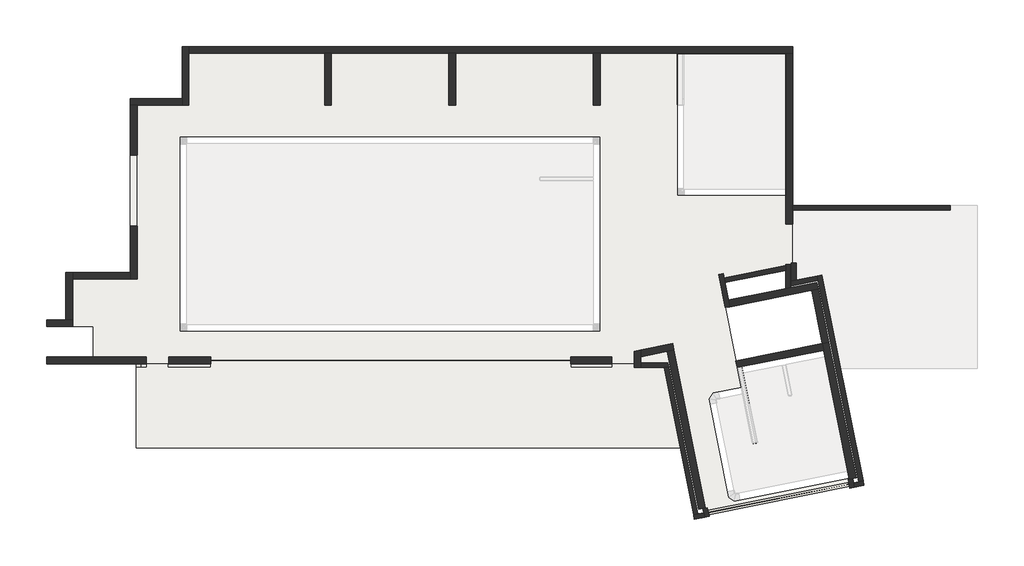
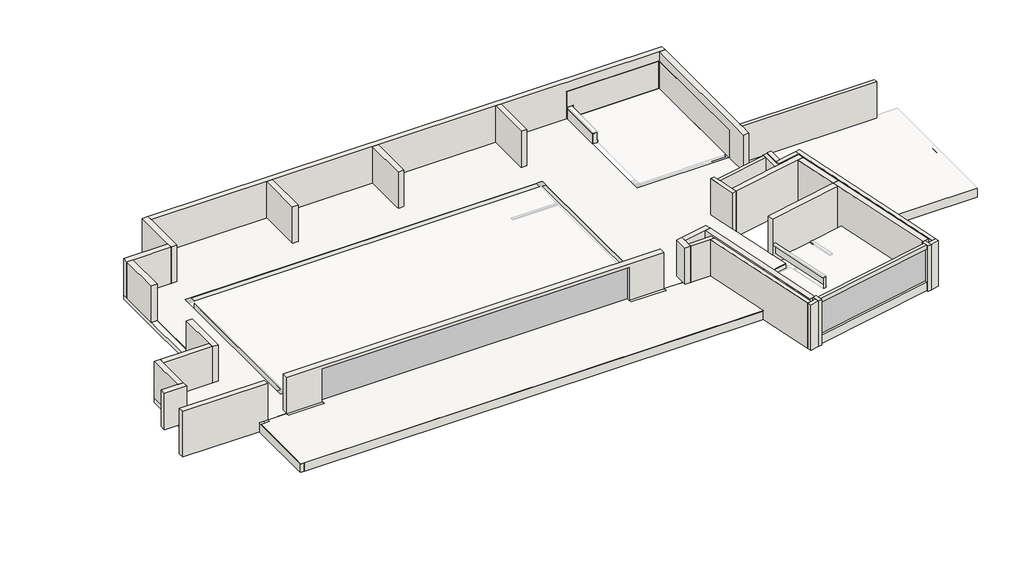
# One storey, part 1 of 2: 47 walls, 3 slabs, 2 plates.
"""IFC4 building model written with IfcOpenShell, lengths in millimetres."""

from ifc_helpers import new_model, si_unit, frame, origin, place, context, project, spatial, polyline, outline, extrude, faceted_brep, transform, mapped, element, save
from components import panel_acristalado_panel_acristalado_1cm_c159a7d5, panel_acristalado_panel_acristalado_1cm_5b8627b4

model = new_model("IFC4")

# Units and contexts
model_context = context("Model", 3, world=origin())
ifc_project = project(units=[si_unit("LENGTHUNIT", "METRE", prefix="MILLI")], contexts=[model_context])

# Site, building, storey
site = spatial("IfcSite", under=ifc_project)
building = spatial("IfcBuilding", under=site)
storey = spatial("IfcBuildingStorey", under=building, Name="1_NPlaya", Elevation=-0.4)

# Plates
placement = place(None, origin())
panel_acristalado_panel_acristalado_1cm_shape = panel_acristalado_panel_acristalado_1cm_c159a7d5(model_context)
element("IfcPlate", 1, ObjectType="Panel acristalado : Panel acristalado 1cm", at=placement, inside=storey, context=model_context, shape_type="MappedRepresentation", body=[
    mapped(panel_acristalado_panel_acristalado_1cm_shape, transform((16502.6011872, -36801.493098, -10.4), x_axis=(1.0, 0.0, 0.0), y_axis=(0.0, 1.0, 0.0), z_axis=(0.0, 0.0, 1.0))),
])
panel_acristalado_panel_acristalado_1cm_2_shape = panel_acristalado_panel_acristalado_1cm_5b8627b4(model_context)
element("IfcPlate", 2, ObjectType="Panel acristalado : Panel acristalado 1cm", at=placement, inside=storey, context=model_context, shape_type="MappedRepresentation", body=[
    mapped(panel_acristalado_panel_acristalado_1cm_2_shape, transform((33678.7297583, -42908.1677095, -10.4), x_axis=(0.9805675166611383, 0.1961819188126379, 0.0), y_axis=(-0.1961819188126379, 0.9805675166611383, 0.0), z_axis=(0.0, 0.0, 1.0))),
])

# Slabs
element("IfcSlab", 3, ObjectType="Pieza 316_Patrón 1/3_Serena_Griggio_Anti-Slip", at=placement, inside=storey, context=model_context, shape_type="SweptSolid", body=[
    extrude(outline(polyline([(2427.4363177, -35301.4931406), (2427.4363177, -33201.493098), (5277.4363177, -33201.493098), (5277.4363177, -25501.493098), (7577.4363177, -25501.493098), (7577.4363177, -23201.493098), (13577.4363177, -23201.493098), (13577.4363177, -25501.493098), (13877.4363177, -25501.493098), (13877.4363177, -23201.493098), (19077.4363177, -23201.493098), (19077.4363177, -25501.493098), (19377.4363177, -25501.493098), (19377.4363177, -23201.493098), (25477.4363177, -23201.493098), (25477.4363177, -25501.493098), (25777.4363177, -25501.493098), (25777.4363177, -23201.493098), (29192.4363177, -23201.493098), (29192.4363177, -29486.493098), (33977.4363177, -29486.493098), (33977.4363177, -30751.493098), (34277.4363177, -30751.493098), (34277.4363177, -32551.493098), (33977.4363177, -32551.493098), (33977.4363177, -32601.9798306), (31251.664902, -33147.3242945), (31212.4285182, -32951.2107912), (31016.3150149, -32990.447175), (32015.0051069, -37982.1562434), (30752.0259879, -38234.8401537), (30580.5352492, -38492.1136548), (31453.6116689, -42855.9734411), (31710.8851655, -43027.4641767), (36798.0776257, -42009.6707466), (36808.2330043, -42060.4299319), (36754.301773, -42071.219941), (36777.8436033, -42188.8880433), (30516.9172248, -43441.5100917), (30493.3753958, -43323.8419957), (30434.5441177, -43335.612356), (28976.9124606, -36049.9957073), (27277.4363177, -36390.0095107), (27277.4363177, -36951.493098), (26277.4363177, -36951.493098), (26277.4363177, -36651.493098), (24472.7660566, -36651.493098), (24472.7660566, -36796.493098), (8532.4363177, -36796.493098), (8532.4363177, -36651.493098), (6677.4363177, -36651.493098), (6677.4363177, -36951.493098), (5677.4363177, -36951.493098), (5677.4363177, -36651.493098), (3342.4363177, -36651.493098), (3342.4363177, -35301.4931406), (2427.4363177, -35301.4931406)]), holes=[polyline([(25762.4363125, -26916.5022183), (7192.445438, -26916.5022183), (7192.445438, -35486.4839777), (25762.4363125, -35486.4839777), (25762.4363125, -26916.5022183)])]), frame((0.0, 0.0, -9.4), z_axis=(0.0, 0.0, 1.0), x_axis=(1.0, 0.0, 0.0)), (0.0, 0.0, 1.0), 9.0),
])
element("IfcSlab", 4, ObjectType="Pieza 316_Patrón 1/3_Serena_Griggio_Anti-Slip", at=placement, inside=storey, context=model_context, shape_type="SweptSolid", body=[
    extrude(outline(polyline([(5247.4363177, -40681.493098), (5247.4363177, -37116.493098), (5709.4363177, -37116.493098), (5709.4363177, -36951.493098), (6647.4363177, -36951.493098), (6647.4363177, -37116.493098), (8532.4363177, -37116.493098), (8532.4363177, -36806.493098), (24472.7660566, -36806.493098), (24472.7660566, -37116.493098), (26307.4363177, -37116.493098), (26307.4363177, -36951.493098), (27277.4363177, -36951.493098), (27277.4363177, -37116.493098), (28603.8912364, -37116.493098), (29317.1399368, -40681.493098), (5247.4363177, -40681.493098)])), frame((0.0, 0.0, -9.4), z_axis=(0.0, 0.0, 1.0), x_axis=(1.0, 0.0, 0.0)), (0.0, 0.0, 1.0), 9.0),
])
element("IfcSlab", 5, ObjectType="GENÉRICO_SOLERA PLAYA PISCINA_Estructura", at=placement, inside=storey, context=model_context, shape_type="SweptSolid", body=[
    extrude(outline(polyline([(3342.4363177, -35301.4931406), (2127.4363177, -35301.4931406), (2127.4363177, -32901.493098), (4977.4363177, -32901.493098), (4977.4363177, -25201.493098), (7277.4363177, -25201.493098), (7277.4363177, -23201.493098), (13577.4363177, -23201.493098), (13577.4363177, -25501.493098), (13877.4363177, -25501.493098), (13877.4363177, -23201.493098), (19077.4363177, -23201.493098), (19077.4363177, -25501.493098), (19377.4363177, -25501.493098), (19377.4363177, -23201.493098), (25477.4363177, -23201.493098), (25477.4363177, -25501.493098), (25777.4363177, -25501.493098), (25777.4363177, -23201.493098), (29192.4363177, -23201.493098), (29192.4363177, -29486.493098), (33977.4363177, -29486.493098), (33977.4363177, -30751.493098), (34277.4363177, -30751.493098), (34277.4363177, -32551.493098), (33977.4363177, -32551.493098), (33977.4363177, -32601.9798306), (31251.664902, -33147.3242945), (31212.4285182, -32951.2107912), (31016.3150149, -32990.447175), (32015.0051069, -37982.1562434), (30752.0259879, -38234.8401537), (30580.5352492, -38492.1136548), (31453.6116689, -42855.9734411), (31710.8851655, -43027.4641767), (36798.0776257, -42009.6707466), (36808.2330043, -42060.4299319), (36754.301773, -42071.219941), (36777.8436033, -42188.8880433), (30516.9172248, -43441.5100917), (30493.3753958, -43323.8419957), (30434.5441177, -43335.612356), (29857.5190372, -40451.493098), (5447.4363177, -40451.493098), (5447.4363177, -36651.493098), (3342.4363177, -36651.493098), (3342.4363177, -35301.4931406)]), holes=[polyline([(25762.4363125, -26916.5022183), (7192.445438, -26916.5022183), (7192.445438, -35486.4839777), (25762.4363125, -35486.4839777), (25762.4363125, -26916.5022183)])]), frame((0.0, 0.0, -241.4), z_axis=(0.0, 0.0, 1.0), x_axis=(1.0, 0.0, 0.0)), (0.0, 0.0, 1.0), 231.0),
])

# Walls
element("IfcWall", 6, ObjectType="Pieza 244 G1_Patrón Recto_Aqua_Azul_Liso", at=placement, inside=storey, context=model_context, shape_type="SweptSolid", body=[
    extrude(outline(polyline([(7477.4363177, -27231.493098), (7477.4363177, -35171.493098), (7468.4363177, -35171.493098), (7468.4363177, -27231.493098), (7477.4363177, -27231.493098)])), frame((0.0, 0.0, -1320.4), z_axis=(0.0, 0.0, 1.0), x_axis=(1.0, 0.0, 0.0)), (0.0, 0.0, 1.0), 1213.3450913),
])
element("IfcWall", 7, ObjectType="Pieza 244 G1_Patrón Recto_Aqua_Azul_Liso", at=placement, inside=storey, context=model_context, shape_type="SweptSolid", body=[
    extrude(outline(polyline([(629.6, 29162.4363177), (629.6, 29507.4629063), (12.879961, 29507.4629063), (12.879961, 33947.4629063), (1499.6, 33947.4629063), (1499.6, 29162.4363177), (629.6, 29162.4363177)])), frame((0.0, -23201.493098, 0.0), z_axis=(0.0, 1.0, 0.0), x_axis=(0.0, 0.0, 1.0)), (0.0, 0.0, 1.0), 9.0),
])
element("IfcWall", 8, ObjectType="Pieza 244 G1_Patrón Recto_Aqua_Azul_Liso", at=placement, inside=storey, context=model_context, shape_type="SweptSolid", body=[
    extrude(outline(polyline([(33977.4363177, -29496.4935365), (33977.4363177, -23231.4665095), (33986.4363177, -23231.4665095), (33986.4363177, -29496.4935365), (33977.4363177, -29496.4935365)])), frame((0.0, 0.0, 12.879961), z_axis=(0.0, 0.0, 1.0), x_axis=(1.0, 0.0, 0.0)), (0.0, 0.0, 1.0), 1486.720039),
])
element("IfcWall", 9, ObjectType="Pieza 244 G1_Patrón Recto_Aqua_Azul_Liso", at=placement, inside=storey, context=model_context, shape_type="SweptSolid", body=[
    extrude(outline(polyline([(29192.4363177, -25461.493098), (29192.4363177, -23231.5196866), (29201.4363177, -23231.5196866), (29201.4363177, -25461.493098), (29192.4363177, -25461.493098)])), frame((0.0, 0.0, -0.4), z_axis=(0.0, 0.0, 1.0), x_axis=(1.0, 0.0, 0.0)), (0.0, 0.0, 1.0), 560.0),
])
element("IfcWall", 10, ObjectType="Pieza 244 G1_Patrón Recto_Aqua_Azul_Liso", at=placement, inside=storey, context=model_context, shape_type="SweptSolid", body=[
    extrude(outline(polyline([(29437.4363177, -25501.493098), (29232.4363177, -25501.493098), (29232.4363177, -25492.493098), (29437.4363177, -25492.493098), (29437.4363177, -25501.493098)])), frame((0.0, 0.0, -0.4), z_axis=(0.0, 0.0, 1.0), x_axis=(1.0, 0.0, 0.0)), (0.0, 0.0, 1.0), 560.0),
])
element("IfcWall", 11, ObjectType="Pieza 244 G1_Patrón Recto_Aqua_Azul_Liso", at=placement, inside=storey, context=model_context, shape_type="SweptSolid", body=[
    extrude(outline(polyline([(29477.4363177, -23231.5196866), (29477.4363177, -25461.493098), (29468.4363177, -25461.493098), (29468.4363177, -23231.5196866), (29477.4363177, -23231.5196866)])), frame((0.0, 0.0, 12.879961), z_axis=(0.0, 0.0, 1.0), x_axis=(1.0, 0.0, 0.0)), (0.0, 0.0, 1.0), 546.720039),
])
element("IfcWall", 12, ObjectType="Pieza 244 G1_Patrón Recto_Aqua_Azul_Liso", at=placement, inside=storey, context=model_context, shape_type="SweptSolid", body=[
    extrude(outline(polyline([(30.7353566, 0.0), (505.8629836, 0.0), (600.0002385, -480.1), (296.6615313, -480.1), (190.7619471, -1140.9709657), (190.7619471, -1144.1545458), (150.8175335, -1144.1545458), (150.8175335, -1730.1), (30.7353566, -1730.1), (30.7353566, 0.0)])), frame((32526.1652777, -40489.9763569, -1170.5), z_axis=(-0.19618191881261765, 0.9805675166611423, 0.0), x_axis=(0.9805675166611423, 0.19618191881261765, 0.0)), (0.0, 0.0, 1.0), 9.0),
])
element("IfcWall", 13, ObjectType="Pieza 244 G1_Patrón Recto_Aqua_Azul_Liso", at=placement, inside=storey, context=model_context, shape_type="SweptSolid", body=[
    extrude(outline(polyline([(32037.3786631, -37074.5232931), (32705.3781832, -40413.35567), (32696.5530756, -40415.1213075), (32028.5535555, -37076.2889306), (32037.3786631, -37074.5232931)])), frame((0.0, 0.0, 3.7573653), z_axis=(0.0, 0.0, 1.0), x_axis=(1.0, 0.0, 0.0)), (0.0, 0.0, 1.0), 555.8426347),
])
element("IfcWall", 14, ObjectType="GENÉRICO_MURO BASE_30 cm", at=placement, inside=storey, context=model_context, shape_type="Brep", body=[
    faceted_brep([(35606.5722965, -36054.2218591, -500.4), (35665.4268722, -36348.3921141, -500.4), (36808.2329733, -42060.429938, -500.4), (36808.2329733, -42060.429938, 1999.6), (35665.4268722, -36348.3921141, 1999.6), (35606.5722965, -36054.2218591, 1999.6), (35900.7425515, -35995.3672834, -500.4), (35900.7425515, -35995.3672834, 1999.6), (37102.4032283, -42001.5753624, 1999.6), (37102.4032283, -42001.5753624, -500.4), (36950.4152763, -42031.9835572, -500.4), (36950.4152763, -42031.9835572, 1999.6)], [[[0, 1, 2, 3, 4, 5]], [[6, 7, 8, 9]], [[2, 1, 0, 6, 9, 10]], [[3, 2, 10, 9, 8, 11]], [[5, 4, 3, 11, 8, 7]], [[0, 5, 7, 6]]]),
])
element("IfcWall", 15, ObjectType="GENÉRICO_MURO BASE_30 cm", at=placement, inside=storey, context=model_context, shape_type="SweptSolid", body=[
    extrude(outline(polyline([(35665.4268722, -36348.3921141), (31841.21357, -37113.5015949), (31782.3589943, -36819.3313399), (35606.5722965, -36054.2218591), (35665.4268722, -36348.3921141)])), frame((0.0, 0.0, -500.4), z_axis=(0.0, 0.0, 1.0), x_axis=(1.0, 0.0, 0.0)), (0.0, 0.0, 1.0), 2500.0),
])
element("IfcWall", 16, ObjectType="GENÉRICO_MURO BASE_30 cm", at=placement, inside=storey, context=model_context, shape_type="Brep", body=[
    faceted_brep([(27577.4363177, -37116.493098, -500.4), (27577.4363177, -36916.493098, -500.4), (27577.4363177, -36635.9338557, -500.4), (27577.4363177, -36329.9885793, -500.4), (27577.4363177, -36329.9885793, 1999.6), (27577.4363177, -36635.9338557, 1999.6), (27577.4363177, -36916.493098, 1999.6), (27577.4363177, -37116.493098, 1999.6), (27277.4363177, -37116.493098, -500.4), (27277.4363177, -37116.493098, 1999.6), (27277.4363177, -36390.0095107, 1999.6), (27277.4363177, -36390.0095107, -500.4)], [[[0, 1, 2, 3, 4, 5, 6, 7]], [[8, 9, 10, 11]], [[3, 2, 1, 0, 8, 11]], [[7, 6, 5, 4, 10, 9]], [[4, 3, 11, 10]], [[0, 7, 9, 8]]]),
])
element("IfcWall", 17, ObjectType="GENÉRICO_MURO BASE_30 cm", at=placement, inside=storey, context=model_context, shape_type="Brep", body=[
    faceted_brep([(27577.4363177, -36635.9338557, -500.4), (28741.5967785, -36403.0205386, -500.4), (29035.7670335, -36344.1659629, -500.4), (29035.7670335, -36344.1659629, 1999.6), (28741.5967785, -36403.0205386, 1999.6), (27577.4363177, -36635.9338557, 1999.6), (27577.4363177, -36329.9885793, -500.4), (27577.4363177, -36329.9885793, 1999.6), (28976.9124606, -36049.9957074, 1999.6), (28976.9124606, -36049.9957074, -500.4)], [[[0, 1, 2, 3, 4, 5]], [[6, 7, 8, 9]], [[2, 1, 0, 6, 9]], [[5, 4, 3, 8, 7]], [[0, 5, 7, 6]], [[3, 2, 9, 8]]]),
])
element("IfcWall", 18, ObjectType="GENÉRICO_MURO BASE_30 cm", at=placement, inside=storey, context=model_context, shape_type="SweptSolid", body=[
    extrude(outline(polyline([(30140.3737946, -43394.4669435), (28741.5967785, -36403.0205386), (29035.7670335, -36344.1659629), (30434.5440501, -43335.6123706), (30140.3737946, -43394.4669435)])), frame((0.0, 0.0, -500.4), z_axis=(0.0, 0.0, 1.0), x_axis=(1.0, 0.0, 0.0)), (0.0, 0.0, 1.0), 2500.0),
])
element("IfcWall", 19, ObjectType="GENÉRICO_MURO BASE_30 cm", at=placement, inside=storey, context=model_context, shape_type="Brep", body=[
    faceted_brep([(7577.4363177, -25501.493098, -0.4), (7577.4363177, -22892.493098, -0.4), (7577.4363177, -22892.493098, 1999.6), (7577.4363177, -23192.493098, 1999.6), (7577.4363177, -25501.493098, 1999.6), (7277.4363177, -25501.493098, -0.4), (7277.4363177, -25501.493098, 1999.6), (7277.4363177, -25201.493098, 1999.6), (7277.4363177, -22892.493098, 1999.6), (7277.4363177, -22892.493098, -0.4), (7277.4363177, -25201.493098, -0.4)], [[[0, 1, 2, 3, 4]], [[5, 6, 7, 8, 9, 10]], [[1, 0, 5, 10, 9]], [[2, 1, 9, 8]], [[4, 3, 2, 8, 7, 6]], [[0, 4, 6, 5]]]),
])
element("IfcWall", 20, ObjectType="GENÉRICO_MURO BASE_30 cm", at=placement, inside=storey, context=model_context, shape_type="Brep", body=[
    faceted_brep([(7577.4363177, -23192.493098, -1200.4), (33987.4097292, -23192.493098, -1200.4), (34287.4097292, -23192.493098, -1200.4), (34287.4097292, -23192.493098, 1999.6), (33987.4097292, -23192.493098, 1999.6), (7577.4363177, -23192.493098, 1999.6), (7577.4363177, -22892.493098, -1200.4), (7577.4363177, -22892.493098, -0.4), (7577.4363177, -22892.493098, 1999.6), (34287.4097292, -22892.493098, 1999.6), (34287.4097292, -22892.493098, -1200.4)], [[[0, 1, 2, 3, 4, 5]], [[6, 7, 8, 9, 10]], [[2, 1, 0, 6, 10]], [[5, 4, 3, 9, 8]], [[3, 2, 10, 9]], [[0, 5, 8, 7, 6]]]),
])
element("IfcWall", 21, ObjectType="GENÉRICO_MURO BASE_30 cm", at=placement, inside=storey, context=model_context, shape_type="SweptSolid", body=[
    extrude(outline(polyline([(13577.4363177, -25501.493098), (13577.4363177, -23192.493098), (13877.4363177, -23192.493098), (13877.4363177, -25501.493098), (13577.4363177, -25501.493098)])), frame((0.0, 0.0, -0.4), z_axis=(0.0, 0.0, 1.0), x_axis=(1.0, 0.0, 0.0)), (0.0, 0.0, 1.0), 2000.0),
])
element("IfcWall", 22, ObjectType="GENÉRICO_MURO BASE_30 cm", at=placement, inside=storey, context=model_context, shape_type="SweptSolid", body=[
    extrude(outline(polyline([(19077.4363177, -25501.493098), (19077.4363177, -23192.493098), (19377.4363177, -23192.493098), (19377.4363177, -25501.493098), (19077.4363177, -25501.493098)])), frame((0.0, 0.0, -0.4), z_axis=(0.0, 0.0, 1.0), x_axis=(1.0, 0.0, 0.0)), (0.0, 0.0, 1.0), 2000.0),
])
element("IfcWall", 23, ObjectType="GENÉRICO_MURO BASE_30 cm", at=placement, inside=storey, context=model_context, shape_type="SweptSolid", body=[
    extrude(outline(polyline([(25477.4363177, -25501.493098), (25477.4363177, -23192.493098), (25777.4363177, -23192.493098), (25777.4363177, -25501.493098), (25477.4363177, -25501.493098)])), frame((0.0, 0.0, -0.4), z_axis=(0.0, 0.0, 1.0), x_axis=(1.0, 0.0, 0.0)), (0.0, 0.0, 1.0), 2000.0),
])
element("IfcWall", 24, ObjectType="GENÉRICO_MURO BASE_30 cm", at=placement, inside=storey, context=model_context, shape_type="Brep", body=[
    faceted_brep([(33987.4097292, -23192.493098, -1200.4), (33987.4097292, -30751.493098, -1200.4), (33987.4097292, -30751.493098, 1999.6), (33987.4097292, -23192.493098, 1999.6), (34287.4097292, -23192.493098, -1200.4), (34287.4097292, -23192.493098, 1999.6), (34287.4097292, -29932.2845833, 1999.6), (34287.4097292, -30132.2845833, 1999.6), (34287.4097292, -30751.493098, 1999.6), (34287.4097292, -30751.493098, -1200.4), (34287.4097292, -30132.2845833, -1200.4), (34287.4097292, -29932.2845833, -1200.4)], [[[0, 1, 2, 3]], [[4, 5, 6, 7, 8, 9, 10, 11]], [[1, 0, 4, 11, 10, 9]], [[2, 1, 9, 8]], [[3, 2, 8, 7, 6, 5]], [[0, 3, 5, 4]]]),
])
element("IfcWall", 25, ObjectType="GENÉRICO_MURO BASE_30 cm", at=placement, inside=storey, context=model_context, shape_type="Brep", body=[
    faceted_brep([(7277.4363177, -25201.493098, -0.4), (4977.4363177, -25201.493098, -0.4), (4977.4363177, -25201.493098, 1999.6), (7277.4363177, -25201.493098, 1999.6), (7277.4363177, -25501.493098, -0.4), (7277.4363177, -25501.493098, 1999.6), (5277.4363177, -25501.493098, 1999.6), (4977.4363177, -25501.493098, 1999.6), (4977.4363177, -25501.493098, -0.4), (5277.4363177, -25501.493098, -0.4)], [[[0, 1, 2, 3]], [[4, 5, 6, 7, 8, 9]], [[1, 0, 4, 9, 8]], [[3, 2, 7, 6, 5]], [[2, 1, 8, 7]], [[0, 3, 5, 4]]]),
])
element("IfcWall", 26, ObjectType="GENÉRICO_MURO BASE_30 cm", at=placement, inside=storey, context=model_context, shape_type="SweptSolid", body=[
    extrude(outline(polyline([(4977.4363177, -27701.493098), (4977.4363177, -25501.493098), (5277.4363177, -25501.493098), (5277.4363177, -27701.493098), (4977.4363177, -27701.493098)])), frame((0.0, 0.0, -0.4), z_axis=(0.0, 0.0, 1.0), x_axis=(1.0, 0.0, 0.0)), (0.0, 0.0, 1.0), 2000.0),
])
element("IfcWall", 27, ObjectType="GENÉRICO_MURO BASE_30 cm", at=placement, inside=storey, context=model_context, shape_type="Brep", body=[
    faceted_brep([(4977.4363177, -30852.1035335, -0.4), (4977.4363177, -32901.493098, -0.4), (4977.4363177, -33201.493098, -0.4), (4977.4363177, -33201.493098, 1999.6), (4977.4363177, -32901.493098, 1999.6), (4977.4363177, -30852.1035335, 1999.6), (5277.4363177, -30852.1035335, -0.4), (5277.4363177, -30852.1035335, 1999.6), (5277.4363177, -33201.493098, 1999.6), (5277.4363177, -33201.493098, -0.4)], [[[0, 1, 2, 3, 4, 5]], [[6, 7, 8, 9]], [[2, 1, 0, 6, 9]], [[5, 4, 3, 8, 7]], [[0, 5, 7, 6]], [[3, 2, 9, 8]]]),
])
element("IfcWall", 28, ObjectType="GENÉRICO_MURO BASE_30 cm", at=placement, inside=storey, context=model_context, shape_type="SweptSolid", body=[
    extrude(outline(polyline([(2427.4363177, -32901.493098), (4977.4363177, -32901.493098), (4977.4363177, -33201.493098), (2427.4363177, -33201.493098), (2427.4363177, -32901.493098)])), frame((0.0, 0.0, -0.4), z_axis=(0.0, 0.0, 1.0), x_axis=(1.0, 0.0, 0.0)), (0.0, 0.0, 1.0), 2000.0),
])
element("IfcWall", 29, ObjectType="GENÉRICO_MURO BASE_30 cm", at=placement, inside=storey, context=model_context, shape_type="Brep", body=[
    faceted_brep([(2127.4363177, -32901.493098, -0.4), (2127.4363177, -35001.4931406, -0.4), (2127.4363177, -35001.4931406, 1999.6), (2127.4363177, -32901.493098, 1999.6), (2427.4363177, -32901.493098, -0.4), (2427.4363177, -32901.493098, 1999.6), (2427.4363177, -33201.493098, 1999.6), (2427.4363177, -35001.4931406, 1999.6), (2427.4363177, -35001.4931406, -0.4), (2427.4363177, -33201.493098, -0.4)], [[[0, 1, 2, 3]], [[4, 5, 6, 7, 8, 9]], [[1, 0, 4, 9, 8]], [[3, 2, 7, 6, 5]], [[2, 1, 8, 7]], [[0, 3, 5, 4]]]),
])
element("IfcWall", 30, ObjectType="GENÉRICO_MURO BASE_30 cm", at=placement, inside=storey, context=model_context, shape_type="Brep", body=[
    faceted_brep([(2427.4363177, -35001.4931406, -0.4), (2127.4363177, -35001.4931406, -0.4), (1273.3788418, -35001.4931406, -0.4), (1273.3788418, -35001.4931406, 1999.6), (2127.4363177, -35001.4931406, 1999.6), (2427.4363177, -35001.4931406, 1999.6), (2427.4363177, -35301.4931406, -0.4), (2427.4363177, -35301.4931406, 1999.6), (1273.3788418, -35301.4931406, 1999.6), (1273.3788418, -35301.4931406, -0.4)], [[[0, 1, 2, 3, 4, 5]], [[6, 7, 8, 9]], [[2, 1, 0, 6, 9]], [[3, 2, 9, 8]], [[5, 4, 3, 8, 7]], [[0, 5, 7, 6]]]),
])
element("IfcWall", 31, ObjectType="GENÉRICO_MURO BASE_30 cm", at=placement, inside=storey, context=model_context, shape_type="Brep", body=[
    faceted_brep([(5677.4363177, -36651.493098, -500.4), (1273.3788418, -36651.493098, -500.4), (1273.3788418, -36651.493098, 1999.6), (5677.4363177, -36651.493098, 1999.6), (5677.4363177, -36951.493098, -500.4), (5677.4363177, -36951.493098, 1999.6), (1273.3788418, -36951.493098, 1999.6), (1273.3788418, -36951.493098, -500.4), (5247.4363177, -36951.493098, -500.4), (5447.4363177, -36951.493098, -500.4)], [[[0, 1, 2, 3]], [[4, 5, 6, 7, 8, 9]], [[1, 0, 4, 9, 8, 7]], [[2, 1, 7, 6]], [[3, 2, 6, 5]], [[0, 3, 5, 4]]]),
])
element("IfcWall", 32, ObjectType="GENÉRICO_MURO BASE_30 cm", at=placement, inside=storey, context=model_context, shape_type="SweptSolid", body=[
    extrude(outline(polyline([(-500.4, 6677.4363177), (-500.4, 26277.4363177), (1999.6, 26277.4363177), (1999.6, 6677.4363177), (-500.4, 6677.4363177)]), holes=[polyline([(-10.4, 8532.4363177), (1799.6, 8532.4363177), (1799.6, 24472.7660566), (-10.4, 24472.7660566), (-10.4, 8532.4363177)])]), frame((0.0, -36951.493098, 0.0), z_axis=(0.0, 1.0, 0.0), x_axis=(0.0, 0.0, 1.0)), (0.0, 0.0, 1.0), 300.0),
])
element("IfcWall", 33, ObjectType="GENÉRICO_MURO BASE_20 cm", at=placement, inside=storey, context=model_context, shape_type="Brep", body=[
    faceted_brep([(27577.4363177, -37116.493098, -500.4), (28603.8912364, -37116.493098, -500.4), (28807.8547537, -37116.493098, -500.4), (28807.8547537, -37116.493098, 1999.6), (28603.8912364, -37116.493098, 1999.6), (27577.4363177, -37116.493098, 1999.6), (27577.4363177, -36916.493098, -500.4), (27577.4363177, -36916.493098, 1999.6), (28767.8408014, -36916.493098, 1999.6), (28767.8408014, -36916.493098, -500.4)], [[[0, 1, 2, 3, 4, 5]], [[6, 7, 8, 9]], [[2, 1, 0, 6, 9]], [[5, 4, 3, 8, 7]], [[3, 2, 9, 8]], [[0, 5, 7, 6]]]),
])
element("IfcWall", 34, ObjectType="GENÉRICO_MURO BASE_20 cm", at=placement, inside=storey, context=model_context, shape_type="Brep", body=[
    faceted_brep([(28603.8912364, -37116.493098, -500.4), (29271.1238917, -40451.493098, -500.4), (29311.137844, -40651.493098, -500.4), (29908.5009362, -43637.2670959, -500.4), (29908.5009362, -43637.2670959, 1999.6), (28603.8912364, -37116.493098, 1999.6), (28807.8547537, -37116.493098, -500.4), (28807.8547537, -37116.493098, 1999.6), (30104.6144395, -43598.0307121, 1999.6), (30104.6144395, -43598.0307121, -500.4)], [[[0, 1, 2, 3, 4, 5]], [[6, 7, 8, 9]], [[3, 2, 1, 0, 6, 9]], [[5, 4, 8, 7]], [[0, 5, 7, 6]], [[4, 3, 9, 8]]]),
])
element("IfcWall", 35, ObjectType="GENÉRICO_MURO BASE_20 cm", at=placement, inside=storey, context=model_context, shape_type="Brep", body=[
    faceted_brep([(29947.7373181, -43833.3805996, -500.4), (30398.7983758, -43743.1369169, -500.4), (30398.7983758, -43743.1369169, 1999.6), (29947.7373181, -43833.3805996, 1999.6), (29908.5009362, -43637.2670959, -500.4), (29908.5009362, -43637.2670959, 1999.6), (30104.6144395, -43598.0307121, 1999.6), (30359.561992, -43547.0234136, 1999.6), (30359.561992, -43547.0234136, -500.4), (30104.6144395, -43598.0307121, -500.4)], [[[0, 1, 2, 3]], [[4, 5, 6, 7, 8, 9]], [[1, 0, 4, 9, 8]], [[3, 2, 7, 6, 5]], [[0, 3, 5, 4]], [[2, 1, 8, 7]]]),
])
element("IfcWall", 36, ObjectType="GENÉRICO_MURO BASE_20 cm", at=placement, inside=storey, context=model_context, shape_type="Brep", body=[
    faceted_brep([(30321.778791, -43358.1732901, -500.4), (30359.561992, -43547.0234136, -500.4), (30398.7983758, -43743.1369169, -500.4), (30398.7983758, -43743.1369169, 1999.6), (30359.561992, -43547.0234136, 1999.6), (30321.778791, -43358.1732901, 1999.6), (30517.8922943, -43318.9369063, -500.4), (30517.8922943, -43318.9369063, 1999.6), (30540.9068322, -43433.969466, 1999.6), (30580.143216, -43630.0829693, 1999.6), (30594.9118791, -43703.9005331, 1999.6), (30594.9118791, -43703.9005331, -500.4), (30580.143216, -43630.0829693, -500.4), (30540.9068322, -43433.969466, -500.4)], [[[0, 1, 2, 3, 4, 5]], [[6, 7, 8, 9, 10, 11, 12, 13]], [[2, 1, 0, 6, 13, 12, 11]], [[5, 4, 3, 10, 9, 8, 7]], [[0, 5, 7, 6]], [[3, 2, 11, 10]]]),
])
element("IfcWall", 37, ObjectType="GENÉRICO_MURO BASE_20 cm", at=placement, inside=storey, context=model_context, shape_type="Brep", body=[
    faceted_brep([(36754.301773, -42071.219941, -500.4), (36777.3163007, -42186.2524498, -500.4), (36816.5526845, -42382.3659531, -500.4), (36831.7936205, -42458.5440581, -500.4), (36831.7936205, -42458.5440581, 1999.6), (36816.5526845, -42382.3659531, 1999.6), (36777.3163007, -42186.2524498, 1999.6), (36754.301773, -42071.219941, 1999.6), (36950.4152763, -42031.9835572, -500.4), (36950.4152763, -42031.9835572, 1999.6), (36988.6707401, -42223.194171, 1999.6), (37027.9071238, -42419.3076743, 1999.6), (37027.9071238, -42419.3076743, -500.4), (36988.6707401, -42223.194171, -500.4), (36808.2329733, -42060.429938, -500.4), (36808.2329733, -42060.429938, 1999.6)], [[[0, 1, 2, 3, 4, 5, 6, 7]], [[8, 9, 10, 11, 12, 13]], [[3, 2, 1, 0, 14, 8, 13, 12]], [[7, 6, 5, 4, 11, 10, 9, 15]], [[0, 7, 15, 9, 8, 14]], [[4, 3, 12, 11]]]),
])
element("IfcWall", 38, ObjectType="GENÉRICO_MURO BASE_20 cm", at=placement, inside=storey, context=model_context, shape_type="Brep", body=[
    faceted_brep([(37027.9071238, -42419.3076743, -500.4), (37449.9478507, -42334.8700826, -500.4), (37449.9478507, -42334.8700826, 1999.6), (37027.9071238, -42419.3076743, 1999.6), (36988.6707401, -42223.194171, -500.4), (36988.6707401, -42223.194171, 1999.6), (37214.5979636, -42177.992963, 1999.6), (37410.7114669, -42138.7565793, 1999.6), (37410.7114669, -42138.7565793, -500.4), (37214.5979636, -42177.992963, -500.4)], [[[0, 1, 2, 3]], [[4, 5, 6, 7, 8, 9]], [[1, 0, 4, 9, 8]], [[3, 2, 7, 6, 5]], [[0, 3, 5, 4]], [[2, 1, 8, 7]]]),
])
element("IfcWall", 39, ObjectType="GENÉRICO_MURO BASE_20 cm", at=placement, inside=storey, context=model_context, shape_type="Brep", body=[
    faceted_brep([(37410.7114669, -42138.7565793, -500.4), (36412.5756156, -37149.8177469, -500.4), (36372.5616614, -36949.8177469, -500.4), (35586.219622, -33019.4786743, -500.4), (35586.219622, -33019.4786743, 1999.6), (37410.7114669, -42138.7565793, 1999.6), (37214.5979636, -42177.992963, -500.4), (37214.5979636, -42177.992963, 1999.6), (35429.3425024, -33254.8285614, 1999.6), (35390.1061186, -33058.7150581, 1999.6), (35390.1061186, -33058.7150581, -500.4), (35429.3425024, -33254.8285614, -500.4)], [[[0, 1, 2, 3, 4, 5]], [[6, 7, 8, 9, 10, 11]], [[3, 2, 1, 0, 6, 11, 10]], [[5, 4, 9, 8, 7]], [[0, 5, 7, 6]], [[4, 3, 10, 9]]]),
])
element("IfcWall", 40, ObjectType="GENÉRICO_MURO BASE_20 cm", at=placement, inside=storey, context=model_context, shape_type="Brep", body=[
    faceted_brep([(35390.1061186, -33058.7150581, -500.4), (34442.4363177, -33248.3151384, -500.4), (34242.4363177, -33288.3290927, -500.4), (34242.4363177, -33288.3290927, 1999.6), (34442.4363177, -33248.3151384, 1999.6), (35390.1061186, -33058.7150581, 1999.6), (35429.3425024, -33254.8285614, -500.4), (35429.3425024, -33254.8285614, 1999.6), (34242.4363177, -33492.2926103, 1999.6), (34242.4363177, -33492.2926103, -500.4)], [[[0, 1, 2, 3, 4, 5]], [[6, 7, 8, 9]], [[2, 1, 0, 6, 9]], [[5, 4, 3, 8, 7]], [[0, 5, 7, 6]], [[3, 2, 9, 8]]]),
])
element("IfcWall", 41, ObjectType="GENÉRICO_MURO BASE_20 cm", at=placement, inside=storey, context=model_context, shape_type="SweptSolid", body=[
    extrude(outline(polyline([(34442.4363177, -32488.3151384), (34442.4363177, -33248.3151384), (34242.4363177, -33288.3290927), (34242.4363177, -32488.3151384), (34442.4363177, -32488.3151384)])), frame((0.0, 0.0, -500.4), z_axis=(0.0, 0.0, 1.0), x_axis=(1.0, 0.0, 0.0)), (0.0, 0.0, 1.0), 2500.0),
])
element("IfcWall", 42, ObjectType="GENÉRICO_MURO BASE_20 cm", at=placement, inside=storey, context=model_context, shape_type="Brep", body=[
    faceted_brep([(31016.3150149, -32990.447175, -500.4), (31310.5878931, -34461.29845, -500.4), (31310.5878931, -34461.29845, 1999.6), (31016.3150149, -32990.447175, 1999.6), (31212.4285182, -32951.2107912, -500.4), (31212.4285182, -32951.2107912, 1999.6), (31251.664902, -33147.3242945, 1999.6), (31290.9012857, -33343.4377979, 1999.6), (31447.8468208, -34127.8918112, 1999.6), (31506.7013964, -34422.0620662, 1999.6), (31506.7013964, -34422.0620662, -500.4), (31447.8468208, -34127.8918112, -500.4), (31290.9012857, -33343.4377979, -500.4), (31251.664902, -33147.3242945, -500.4)], [[[0, 1, 2, 3]], [[4, 5, 6, 7, 8, 9, 10, 11, 12, 13]], [[1, 0, 4, 13, 12, 11, 10]], [[3, 2, 9, 8, 7, 6, 5]], [[0, 3, 5, 4]], [[2, 1, 10, 9]]]),
])
element("IfcWall", 43, ObjectType="GENÉRICO_MURO BASE_20 cm", at=placement, inside=storey, context=model_context, shape_type="SweptSolid", body=[
    extrude(outline(polyline([(33977.4363177, -32805.9433484), (31290.9012857, -33343.4377979), (31251.664902, -33147.3242945), (33977.4363177, -32601.9798307), (33977.4363177, -32805.9433484)])), frame((0.0, 0.0, -500.4), z_axis=(0.0, 0.0, 1.0), x_axis=(1.0, 0.0, 0.0)), (0.0, 0.0, 1.0), 2500.0),
])
element("IfcWall", 44, ObjectType="GENÉRICO_MURO BASE_20 cm", at=placement, inside=storey, context=model_context, shape_type="Brep", body=[
    faceted_brep([(33977.4363177, -32551.493098, -500.4), (33977.4363177, -32601.9798307, -500.4), (33977.4363177, -32805.9433484, -500.4), (33977.4363177, -33621.7974191, -500.4), (33977.4363177, -33621.7974191, 1999.6), (33977.4363177, -32805.9433484, 1999.6), (33977.4363177, -32601.9798307, 1999.6), (33977.4363177, -32551.493098, 1999.6), (34177.4363177, -32551.493098, -500.4), (34177.4363177, -32551.493098, 1999.6), (34177.4363177, -33581.7834648, 1999.6), (34177.4363177, -33581.7834648, -500.4)], [[[0, 1, 2, 3, 4, 5, 6, 7]], [[8, 9, 10, 11]], [[3, 2, 1, 0, 8, 11]], [[7, 6, 5, 4, 10, 9]], [[0, 7, 9, 8]], [[4, 3, 11, 10]]]),
])
element("IfcWall", 45, ObjectType="GENÉRICO_MURO BASE_30 cm", at=placement, inside=storey, context=model_context, shape_type="Brep", body=[
    faceted_brep([(31506.7013964, -34422.0620662, -500.4), (35134.8012081, -33696.1889666, -500.4), (35428.9714631, -33637.334391, -500.4), (35428.9714631, -33637.334391, 1999.6), (35134.8012081, -33696.1889666, 1999.6), (31506.7013964, -34422.0620662, 1999.6), (31447.8468208, -34127.8918112, -500.4), (31447.8468208, -34127.8918112, 1999.6), (33977.4363177, -33621.7974191, 1999.6), (34177.4363177, -33581.7834648, 1999.6), (35370.1168875, -33343.164136, 1999.6), (35370.1168875, -33343.164136, -500.4), (34177.4363177, -33581.7834648, -500.4), (33977.4363177, -33621.7974191, -500.4)], [[[0, 1, 2, 3, 4, 5]], [[6, 7, 8, 9, 10, 11, 12, 13]], [[2, 1, 0, 6, 13, 12, 11]], [[5, 4, 3, 10, 9, 8, 7]], [[3, 2, 11, 10]], [[0, 5, 7, 6]]]),
])
element("IfcWall", 46, ObjectType="GENÉRICO_MURO BASE_30 cm", at=placement, inside=storey, context=model_context, shape_type="SweptSolid", body=[
    extrude(outline(polyline([(35606.5723092, -36054.2218565), (35134.8012081, -33696.1889666), (35428.9714631, -33637.334391), (35900.7425642, -35995.3672809), (35606.5723092, -36054.2218565)])), frame((0.0, 0.0, -500.4), z_axis=(0.0, 0.0, 1.0), x_axis=(1.0, 0.0, 0.0)), (0.0, 0.0, 1.0), 2500.0),
])
element("IfcWall", 47, ObjectType="GENÉRICO_MURO BASE_20 cm", at=placement, inside=storey, context=model_context, shape_type="SweptSolid", body=[
    extrude(outline(polyline([(36816.5526845, -42382.3659531), (30580.143216, -43630.0829693), (30540.9068322, -43433.969466), (36777.3163007, -42186.2524498), (36816.5526845, -42382.3659531)])), frame((0.0, 0.0, -500.4), z_axis=(0.0, 0.0, 1.0), x_axis=(1.0, 0.0, 0.0)), (0.0, 0.0, 1.0), 490.0),
    extrude(outline(polyline([(36816.5526845, -42382.3659531), (30580.143216, -43630.0829693), (30540.9068322, -43433.969466), (36777.3163007, -42186.2524498), (36816.5526845, -42382.3659531)])), frame((0.0, 0.0, 1799.6), z_axis=(0.0, 0.0, 1.0), x_axis=(1.0, 0.0, 0.0)), (0.0, 0.0, 1.0), 200.0),
])
element("IfcWall", 48, ObjectType="GENÉRICO_MURO BASE_20 cm", at=placement, inside=storey, context=model_context, shape_type="SweptSolid", body=[
    extrude(outline(polyline([(41277.4097292, -30132.2845833), (34287.4097292, -30132.2845833), (34287.4097292, -29932.2845833), (41277.4097292, -29932.2845833), (41277.4097292, -30132.2845833)])), frame((0.0, 0.0, -1200.4), z_axis=(0.0, 0.0, 1.0), x_axis=(1.0, 0.0, 0.0)), (0.0, 0.0, 1.0), 3200.0),
])
element("IfcWall", 49, ObjectType="GENÉRICO_MURO BASE_20 cm", at=placement, inside=storey, context=model_context, shape_type="Brep", body=[
    faceted_brep([(36412.5756156, -37149.8177469, -500.4), (42472.5756156, -37149.8177469, -500.4), (42472.5756156, -37149.8177469, -10.4), (36412.5756156, -37149.8177469, -10.4), (36372.5616614, -36949.8177469, -500.4), (36372.5616614, -36949.8177469, -10.4), (42272.5756156, -36949.8177469, -10.4), (42472.5756156, -36949.8177469, -10.4), (42472.5756156, -36949.8177469, -500.4), (42272.5756156, -36949.8177469, -500.4)], [[[0, 1, 2, 3]], [[4, 5, 6, 7, 8, 9]], [[1, 0, 4, 9, 8]], [[3, 2, 7, 6, 5]], [[0, 3, 5, 4]], [[2, 1, 8, 7]]]),
])
element("IfcWall", 50, ObjectType="GENÉRICO_MURO BASE_20 cm", at=placement, inside=storey, context=model_context, shape_type="SweptSolid", body=[
    extrude(outline(polyline([(42472.5756156, -29932.2846425), (42472.5756156, -36949.8177469), (42272.5756156, -36949.8177469), (42272.5756156, -29932.2846425), (42472.5756156, -29932.2846425)])), frame((0.0, 0.0, -500.4), z_axis=(0.0, 0.0, 1.0), x_axis=(1.0, 0.0, 0.0)), (0.0, 0.0, 1.0), 490.0),
])
element("IfcWall", 51, ObjectType="GENÉRICO_MURO BASE_20 cm", at=placement, inside=storey, context=model_context, shape_type="Brep", body=[
    faceted_brep([(5247.4363177, -36951.493098, -500.4), (5247.4363177, -40651.493098, -500.4), (5247.4363177, -40651.493098, -10.4), (5247.4363177, -36951.493098, -10.4), (5447.4363177, -36951.493098, -500.4), (5447.4363177, -36951.493098, -10.4), (5447.4363177, -40451.493098, -10.4), (5447.4363177, -40651.493098, -10.4), (5447.4363177, -40651.493098, -500.4), (5447.4363177, -40451.493098, -500.4)], [[[0, 1, 2, 3]], [[4, 5, 6, 7, 8, 9]], [[1, 0, 4, 9, 8]], [[3, 2, 7, 6, 5]], [[2, 1, 8, 7]], [[0, 3, 5, 4]]]),
])
element("IfcWall", 52, ObjectType="GENÉRICO_MURO BASE_20 cm", at=placement, inside=storey, context=model_context, shape_type="SweptSolid", body=[
    extrude(outline(polyline([(29311.137844, -40651.493098), (5447.4363177, -40651.493098), (5447.4363177, -40451.493098), (29271.1238917, -40451.493098), (29311.137844, -40651.493098)])), frame((0.0, 0.0, -500.4), z_axis=(0.0, 0.0, 1.0), x_axis=(1.0, 0.0, 0.0)), (0.0, 0.0, 1.0), 490.0),
])

save(model, "model.ifc")
